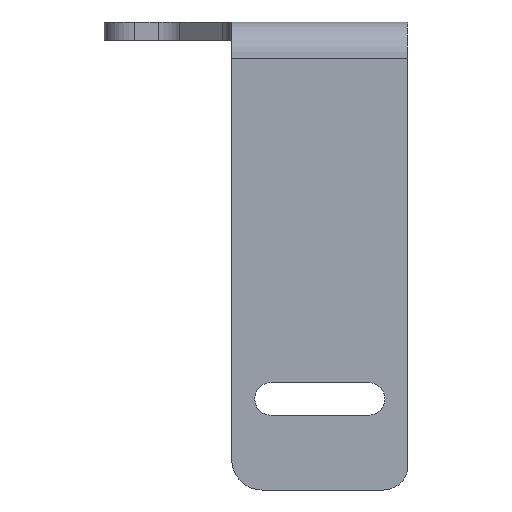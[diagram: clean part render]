
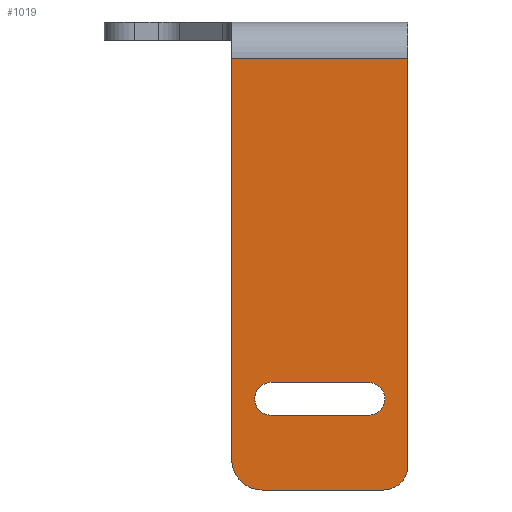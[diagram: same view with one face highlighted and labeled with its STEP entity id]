
A CAD part, front view. The second image highlights one B-rep face of the part: STEP entity #1019.
In plain terms, the highlighted planar face has unit normal (0, -1, 0).
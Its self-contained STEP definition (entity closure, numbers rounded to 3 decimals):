
#12 = VERTEX_POINT ( 'NONE', #904 ) ;
#28 = DIRECTION ( 'NONE',  ( 0., 1., 0. ) ) ;
#38 = DIRECTION ( 'NONE',  ( -1., 0., 0. ) ) ;
#81 = CARTESIAN_POINT ( 'NONE',  ( 25., -3., -70. ) ) ;
#146 = CARTESIAN_POINT ( 'NONE',  ( 25., -3., -3. ) ) ;
#151 = ORIENTED_EDGE ( 'NONE', *, *, #399, .F. ) ;
#175 = AXIS2_PLACEMENT_3D ( 'NONE', #509, #704, #782 ) ;
#189 = VERTEX_POINT ( 'NONE', #680 ) ;
#192 = EDGE_CURVE ( 'NONE', #661, #206, #988, .T. ) ;
#206 = VERTEX_POINT ( 'NONE', #81 ) ;
#215 = EDGE_CURVE ( 'NONE', #969, #880, #763, .T. ) ;
#220 = CARTESIAN_POINT ( 'NONE',  ( 1., -3., -69. ) ) ;
#223 = VERTEX_POINT ( 'NONE', #1013 ) ;
#283 = CARTESIAN_POINT ( 'NONE',  ( 18.5, -3., -61.7 ) ) ;
#289 = ORIENTED_EDGE ( 'NONE', *, *, #542, .T. ) ;
#290 = VECTOR ( 'NONE', #492, 1000. ) ;
#336 = DIRECTION ( 'NONE',  ( -1., 0., 0. ) ) ;
#346 = FACE_OUTER_BOUND ( 'NONE', #939, .T. ) ;
#354 = CARTESIAN_POINT ( 'NONE',  ( 2.5, -3., -61.7 ) ) ;
#359 = CIRCLE ( 'NONE', #791, 2.7 ) ;
#377 = EDGE_LOOP ( 'NONE', ( #1053, #678, #608, #552 ) ) ;
#382 = DIRECTION ( 'NONE',  ( 0., 1., 0. ) ) ;
#386 = DIRECTION ( 'NONE',  ( 0., 0., 1. ) ) ;
#399 = EDGE_CURVE ( 'NONE', #661, #223, #454, .T. ) ;
#415 = LINE ( 'NONE', #927, #908 ) ;
#428 = DIRECTION ( 'NONE',  ( 1., 0., 0. ) ) ;
#442 = EDGE_CURVE ( 'NONE', #573, #206, #690, .T. ) ;
#452 = EDGE_CURVE ( 'NONE', #880, #189, #991, .T. ) ;
#454 = LINE ( 'NONE', #879, #977 ) ;
#475 = LINE ( 'NONE', #146, #290 ) ;
#478 = ORIENTED_EDGE ( 'NONE', *, *, #192, .T. ) ;
#482 = DIRECTION ( 'NONE',  ( 0., 0., 1. ) ) ;
#484 = VECTOR ( 'NONE', #336, 1000. ) ;
#485 = DIRECTION ( 'NONE',  ( 0., -1., 0. ) ) ;
#492 = DIRECTION ( 'NONE',  ( -1., 0., 0. ) ) ;
#509 = CARTESIAN_POINT ( 'NONE',  ( 21., -3., -70. ) ) ;
#511 = EDGE_CURVE ( 'NONE', #895, #223, #824, .T. ) ;
#519 = EDGE_CURVE ( 'NONE', #895, #773, #823, .T. ) ;
#534 = VECTOR ( 'NONE', #701, 1000. ) ;
#542 = EDGE_CURVE ( 'NONE', #573, #773, #475, .T. ) ;
#548 = CARTESIAN_POINT ( 'NONE',  ( 18.5, -3., -59. ) ) ;
#550 = CARTESIAN_POINT ( 'NONE',  ( -4., -3., -3. ) ) ;
#551 = AXIS2_PLACEMENT_3D ( 'NONE', #220, #485, #829 ) ;
#552 = ORIENTED_EDGE ( 'NONE', *, *, #1028, .T. ) ;
#556 = DIRECTION ( 'NONE',  ( 0., 0., 1. ) ) ;
#573 = VERTEX_POINT ( 'NONE', #632 ) ;
#587 = ORIENTED_EDGE ( 'NONE', *, *, #442, .F. ) ;
#608 = ORIENTED_EDGE ( 'NONE', *, *, #725, .T. ) ;
#611 = FACE_BOUND ( 'NONE', #377, .T. ) ;
#632 = CARTESIAN_POINT ( 'NONE',  ( 25., -3., -3. ) ) ;
#645 = CARTESIAN_POINT ( 'NONE',  ( 25., -3., 0. ) ) ;
#646 = ORIENTED_EDGE ( 'NONE', *, *, #511, .T. ) ;
#661 = VERTEX_POINT ( 'NONE', #836 ) ;
#678 = ORIENTED_EDGE ( 'NONE', *, *, #452, .T. ) ;
#680 = CARTESIAN_POINT ( 'NONE',  ( 2.5, -3., -56.3 ) ) ;
#690 = LINE ( 'NONE', #795, #534 ) ;
#701 = DIRECTION ( 'NONE',  ( 0., 0., -1. ) ) ;
#704 = DIRECTION ( 'NONE',  ( 0., -1., 0. ) ) ;
#725 = EDGE_CURVE ( 'NONE', #189, #12, #415, .T. ) ;
#734 = DIRECTION ( 'NONE',  ( 0., 1., 0. ) ) ;
#763 = LINE ( 'NONE', #1093, #484 ) ;
#773 = VERTEX_POINT ( 'NONE', #1039 ) ;
#782 = DIRECTION ( 'NONE',  ( 0., 0., 1. ) ) ;
#789 = VECTOR ( 'NONE', #556, 1000. ) ;
#791 = AXIS2_PLACEMENT_3D ( 'NONE', #548, #734, #482 ) ;
#795 = CARTESIAN_POINT ( 'NONE',  ( 25., -3., 0. ) ) ;
#823 = LINE ( 'NONE', #550, #789 ) ;
#824 = CIRCLE ( 'NONE', #551, 5. ) ;
#829 = DIRECTION ( 'NONE',  ( 0., 0., 1. ) ) ;
#836 = CARTESIAN_POINT ( 'NONE',  ( 21., -3., -74. ) ) ;
#837 = AXIS2_PLACEMENT_3D ( 'NONE', #951, #28, #1040 ) ;
#839 = AXIS2_PLACEMENT_3D ( 'NONE', #645, #382, #386 ) ;
#879 = CARTESIAN_POINT ( 'NONE',  ( 25., -3., -74. ) ) ;
#880 = VERTEX_POINT ( 'NONE', #354 ) ;
#894 = PLANE ( 'NONE',  #839 ) ;
#895 = VERTEX_POINT ( 'NONE', #1042 ) ;
#904 = CARTESIAN_POINT ( 'NONE',  ( 18.5, -3., -56.3 ) ) ;
#908 = VECTOR ( 'NONE', #428, 1000. ) ;
#927 = CARTESIAN_POINT ( 'NONE',  ( 2.5, -3., -56.3 ) ) ;
#939 = EDGE_LOOP ( 'NONE', ( #966, #646, #151, #478, #587, #289 ) ) ;
#951 = CARTESIAN_POINT ( 'NONE',  ( 2.5, -3., -59. ) ) ;
#966 = ORIENTED_EDGE ( 'NONE', *, *, #519, .F. ) ;
#969 = VERTEX_POINT ( 'NONE', #283 ) ;
#977 = VECTOR ( 'NONE', #38, 1000. ) ;
#988 = CIRCLE ( 'NONE', #175, 4. ) ;
#991 = CIRCLE ( 'NONE', #837, 2.7 ) ;
#1013 = CARTESIAN_POINT ( 'NONE',  ( 1., -3., -74. ) ) ;
#1019 = ADVANCED_FACE ( 'NONE', ( #611, #346 ), #894, .F. ) ;
#1028 = EDGE_CURVE ( 'NONE', #12, #969, #359, .T. ) ;
#1039 = CARTESIAN_POINT ( 'NONE',  ( -4., -3., -3. ) ) ;
#1040 = DIRECTION ( 'NONE',  ( 0., 0., 1. ) ) ;
#1042 = CARTESIAN_POINT ( 'NONE',  ( -4., -3., -69. ) ) ;
#1053 = ORIENTED_EDGE ( 'NONE', *, *, #215, .T. ) ;
#1093 = CARTESIAN_POINT ( 'NONE',  ( 2.5, -3., -61.7 ) ) ;
